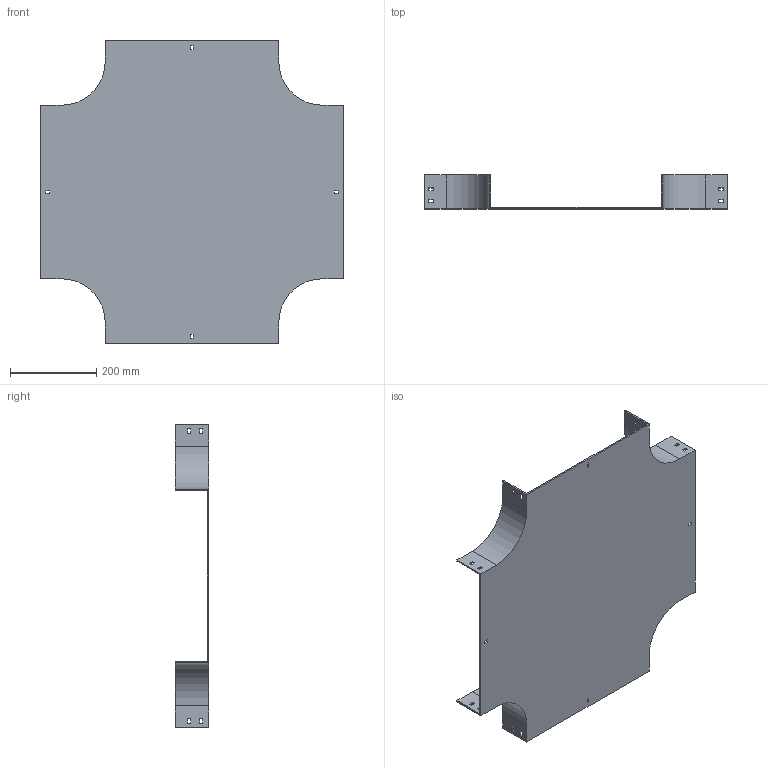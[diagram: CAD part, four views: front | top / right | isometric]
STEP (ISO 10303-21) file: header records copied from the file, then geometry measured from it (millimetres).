
FILE_DESCRIPTION (( 'STEP AP214' ), '1' );
FILE_NAME ('17B1C400.step', '2025-02-21T09:58:22', ( '' ), ( '' ), 'SwSTEP 2.0', 'SolidWorks 2023', '' );
FILE_SCHEMA (( 'AUTOMOTIVE_DESIGN' ));
Length unit declared in the file: millimetre
Products named in the file (1): 17B1C400
Bounding box: 704 x 79 x 704 mm (x, y, z)
Volume: 1719600 mm3; surface area: 996335.7 mm2
Topology: 1 solids, 1 shells, 114 faces, 336 edges, 224 vertices
Faces by surface type: plane 106, cylinder 8
Entity records: 3839 total; most frequent: CARTESIAN_POINT 675, ORIENTED_EDGE 672, DIRECTION 582, EDGE_CURVE 336, LINE 320, VECTOR 320, VERTEX_POINT 224, EDGE_LOOP 154
